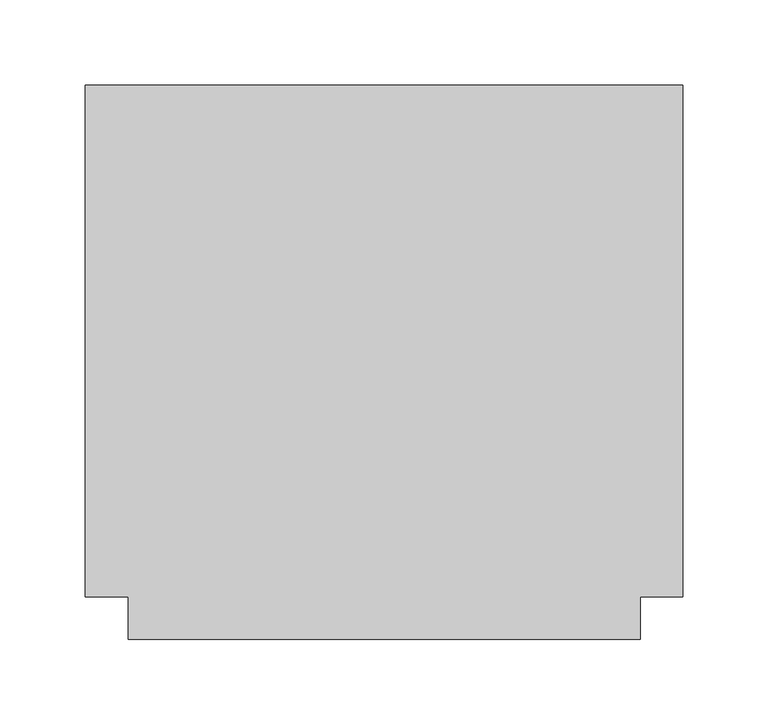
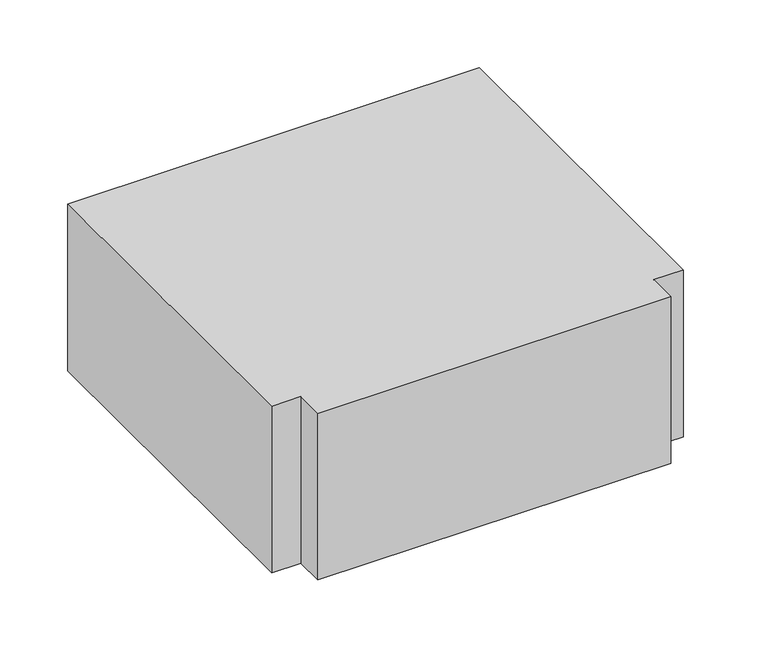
"""IFC4 building model written with IfcOpenShell, lengths in millimetres: duct fitting geometry, M_Te rectangular : Estándar."""

from ifc_helpers import new_model, si_unit, frame, origin, place, context, project, spatial, polyline, outline, extrude, source, transform, mapped, element, save


def duct_fitting_95de42ea(model_context):
    return source(origin(), model_context, "Body", "SweptSolid", [
        extrude(outline(polyline([(-175.0, -150.0), (-175.0, 150.0), (175.0, 150.0), (175.0, -150.0), (150.0, -150.0), (150.0, -175.0), (-150.0, -175.0), (-150.0, -150.0), (-175.0, -150.0)])), frame((0.0, 0.0, -75.0), z_axis=(0.0, 0.0, 1.0), x_axis=(1.0, 0.0, 0.0)), (0.0, 0.0, 1.0), 150.0),
    ])


if __name__ == "__main__":
    model = new_model("IFC4")
    model_context = context("Model", 3, world=origin())
    ifc_project = project(units=[si_unit("LENGTHUNIT", "METRE", prefix="MILLI")], contexts=[model_context])
    site = spatial("IfcSite", under=ifc_project)
    building = spatial("IfcBuilding", under=site)
    placement = place(None, origin())
    duct_fitting_shape = duct_fitting_95de42ea(model_context)
    element("IfcDuctFitting", 1, ObjectType="M_Te rectangular : Estándar", at=placement, inside=building, context=model_context, shape_type="MappedRepresentation", body=[
        mapped(duct_fitting_shape, transform((0.0, 0.0, 0.0), x_axis=(1.0, 0.0, 0.0), y_axis=(0.0, 1.0, 0.0), z_axis=(0.0, 0.0, 1.0))),
    ])
    save(model, "model.ifc")
